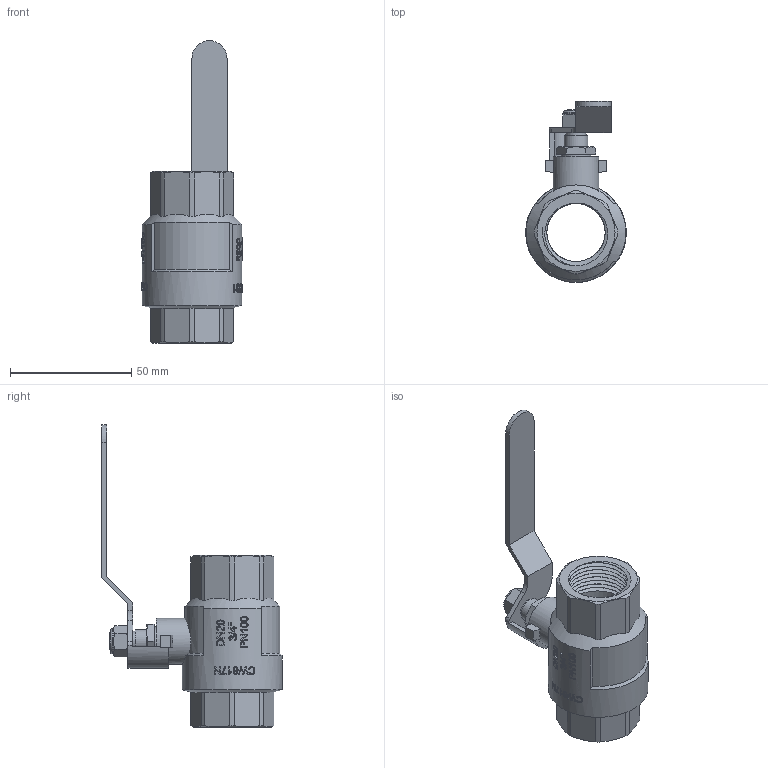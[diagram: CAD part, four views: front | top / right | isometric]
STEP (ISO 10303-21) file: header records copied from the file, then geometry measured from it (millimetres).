
FILE_DESCRIPTION(/* description */ (''),/* implementation_level */ '2;1');
FILE_NAME(/* name */ 'F:\Артём\00000\Работа удаленка\0\B\VT.314.N.05.stp',/* time_stamp */ '2021-02-03T15:40:49+03:00',/* author */ ('almis'),/* organization */ (''),/* preprocessor_version */ 'ST-DEVELOPER v18',/* originating_system */ 'Autodesk Inventor 2020',/* authorisation */ '');
FILE_SCHEMA (('AUTOMOTIVE_DESIGN { 1 0 10303 214 3 1 1 }'));
Length unit declared in the file: millimetre
Products named in the file (1): VT.314_ВВ_3%4
Bounding box: 41.44 x 74.6 x 125.02 mm (x, y, z)
Volume: 53295.5 mm3; surface area: 23983.6 mm2
Topology: 1 solids, 1 shells, 589 faces, 1583 edges, 1054 vertices
Faces by surface type: bspline 243, plane 206, cylinder 123, cone 14, torus 3
Full cylindrical faces by diameter (mm): 8 x1, 8.297 x1, 9.797 x1, 10.392 x1, 12.167 x1, 19 x1, 24.1 x15, 27.7 x16, 41.237 x1
Entity records: 28607 total; most frequent: CARTESIAN_POINT 15529, ORIENTED_EDGE 3166, DIRECTION 1911, EDGE_CURVE 1583, VERTEX_POINT 1054, LINE 705, VECTOR 705, EDGE_LOOP 651
